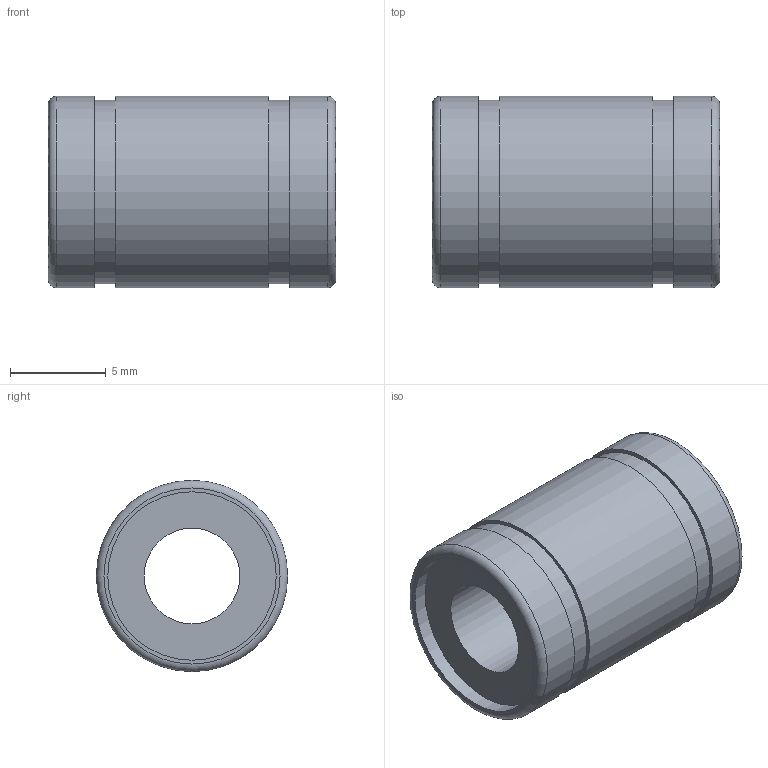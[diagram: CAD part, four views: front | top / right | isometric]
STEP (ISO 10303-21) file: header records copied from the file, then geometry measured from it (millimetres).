
FILE_DESCRIPTION( ( 'Unknown' ), '1' );
FILE_NAME( 'D:/累诀/己绕皋墨飘肺葱胶/11-04-06_档搁累己/01_府聪绢何教/LM/LM5.stp', 'Unknown', ( 'Unknown' ), ( 'Unknown' ), 'PSStep 11.0', 'Unknown', ' ' );
FILE_SCHEMA( ( 'AUTOMOTIVE_DESIGN { 1 0 10303 214 1 1 1 1 }' ) );
Length unit declared in the file: millimetre
Products named in the file (1): 1
Bounding box: 15 x 10 x 10 mm (x, y, z)
Volume: 806.1 mm3; surface area: 853.5 mm2
Topology: 1 solids, 1 shells, 18 faces, 32 edges, 22 vertices
Faces by surface type: plane 8, cylinder 8, torus 2
Full cylindrical faces by diameter (mm): 5 x1, 8.8 x2, 9.6 x2, 10 x3
Entity records: 528 total; most frequent: DIRECTION 74, CARTESIAN_POINT 55, AXIS2_PLACEMENT_3D 37, EDGE_LOOP 36, ORIENTED_EDGE 36, FACE_OUTER_BOUND 28, STYLED_ITEM 18, PRESENTATION_STYLE_ASSIGNMENT 18
